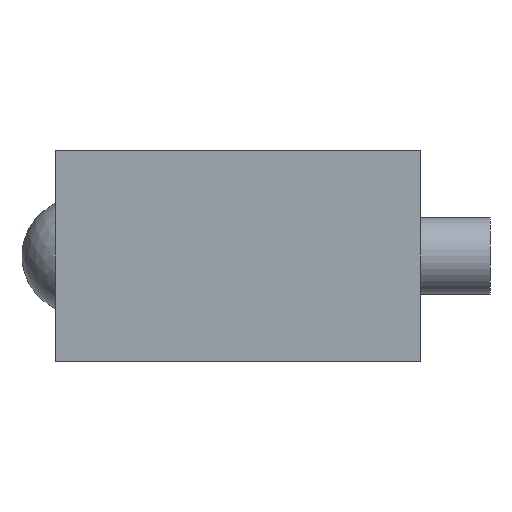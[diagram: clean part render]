
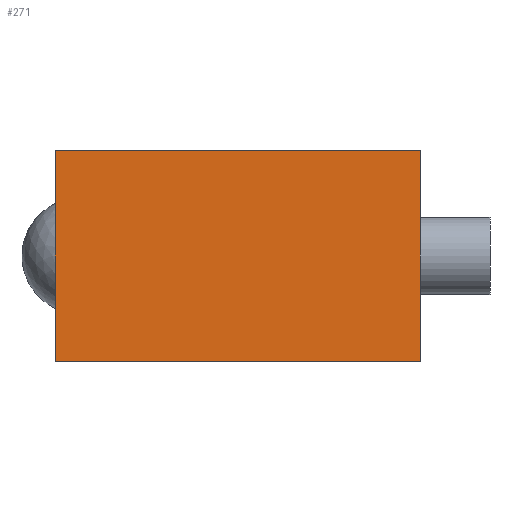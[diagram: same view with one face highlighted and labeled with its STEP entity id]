
A CAD part, left-side view. The second image highlights one B-rep face of the part: STEP entity #271.
In plain terms, the highlighted planar face has unit normal (-1, 0, 0).
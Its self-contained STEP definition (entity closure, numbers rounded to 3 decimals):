
#24=LINE('',#436,#40);
#30=LINE('',#451,#46);
#34=LINE('',#463,#50);
#36=LINE('',#466,#52);
#40=VECTOR('',#366,10.);
#46=VECTOR('',#376,10.);
#50=VECTOR('',#392,10.);
#52=VECTOR('',#396,10.);
#79=FACE_OUTER_BOUND('',#103,.T.);
#103=EDGE_LOOP('',(#215,#216,#217,#218));
#129=VERTEX_POINT('',#434);
#130=VERTEX_POINT('',#435);
#136=VERTEX_POINT('',#448);
#137=VERTEX_POINT('',#450);
#152=EDGE_CURVE('',#129,#130,#24,.T.);
#159=EDGE_CURVE('',#136,#137,#30,.T.);
#165=EDGE_CURVE('',#137,#129,#34,.T.);
#167=EDGE_CURVE('',#130,#136,#36,.T.);
#215=ORIENTED_EDGE('',*,*,#159,.F.);
#216=ORIENTED_EDGE('',*,*,#167,.F.);
#217=ORIENTED_EDGE('',*,*,#152,.F.);
#218=ORIENTED_EDGE('',*,*,#165,.F.);
#234=PLANE('',#321);
#271=ADVANCED_FACE('',(#79),#234,.T.);
#321=AXIS2_PLACEMENT_3D('',#465,#394,#395);
#366=DIRECTION('',(0.,0.,1.));
#376=DIRECTION('',(0.,0.,-1.));
#392=DIRECTION('',(0.,1.,0.));
#394=DIRECTION('center_axis',(-1.,0.,0.));
#395=DIRECTION('ref_axis',(0.,-1.,0.));
#396=DIRECTION('',(0.,-1.,0.));
#434=CARTESIAN_POINT('',(-60.,18.9,-10.9));
#435=CARTESIAN_POINT('',(-60.,18.9,10.9));
#436=CARTESIAN_POINT('',(-60.,18.9,0.));
#448=CARTESIAN_POINT('',(-60.,-18.9,10.9));
#450=CARTESIAN_POINT('',(-60.,-18.9,-10.9));
#451=CARTESIAN_POINT('',(-60.,-18.9,0.));
#463=CARTESIAN_POINT('',(-60.,18.9,-10.9));
#465=CARTESIAN_POINT('Origin',(-60.,18.9,0.));
#466=CARTESIAN_POINT('',(-60.,18.9,10.9));
